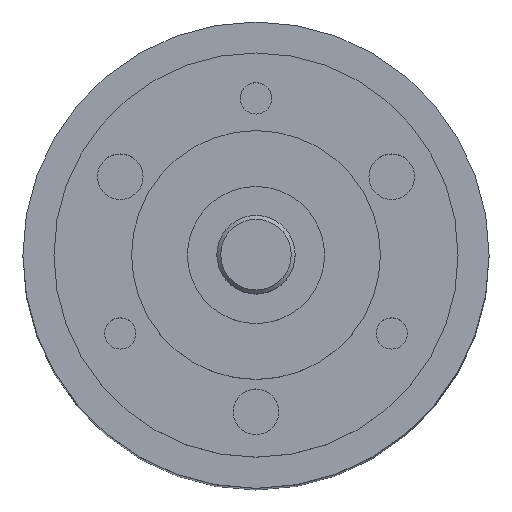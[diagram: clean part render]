
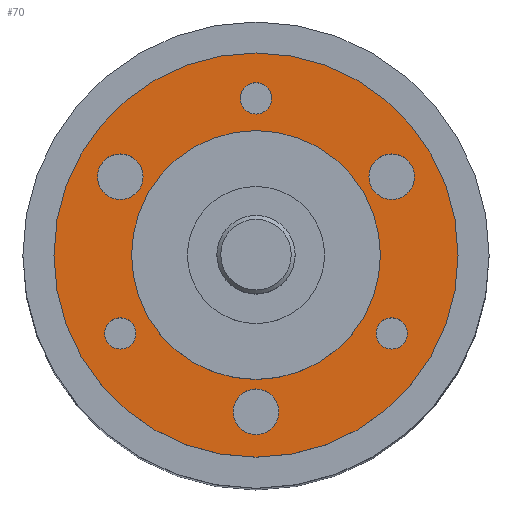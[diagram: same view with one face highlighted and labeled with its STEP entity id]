
A CAD part, top view. The second image highlights one B-rep face of the part: STEP entity #70.
In plain terms, the highlighted planar face has unit normal (0, 0, 1).
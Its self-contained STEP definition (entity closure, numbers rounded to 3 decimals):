
#47=PLANE('',#509);
#70=ADVANCED_FACE('',(#136,#137,#138,#139,#140,#141,#142,#143),#47,.T.);
#136=FACE_BOUND('',#210,.T.);
#137=FACE_BOUND('',#211,.T.);
#138=FACE_BOUND('',#212,.T.);
#139=FACE_BOUND('',#213,.T.);
#140=FACE_BOUND('',#214,.T.);
#141=FACE_BOUND('',#215,.T.);
#142=FACE_BOUND('',#216,.T.);
#143=FACE_BOUND('',#217,.T.);
#210=EDGE_LOOP('',(#292));
#211=EDGE_LOOP('',(#293));
#212=EDGE_LOOP('',(#294));
#213=EDGE_LOOP('',(#295));
#214=EDGE_LOOP('',(#296));
#215=EDGE_LOOP('',(#297));
#216=EDGE_LOOP('',(#298));
#217=EDGE_LOOP('',(#299));
#292=ORIENTED_EDGE('',*,*,#414,.F.);
#293=ORIENTED_EDGE('',*,*,#415,.T.);
#294=ORIENTED_EDGE('',*,*,#416,.T.);
#295=ORIENTED_EDGE('',*,*,#417,.T.);
#296=ORIENTED_EDGE('',*,*,#418,.T.);
#297=ORIENTED_EDGE('',*,*,#419,.T.);
#298=ORIENTED_EDGE('',*,*,#420,.T.);
#299=ORIENTED_EDGE('',*,*,#413,.T.);
#372=VERTEX_POINT('',#761);
#373=VERTEX_POINT('',#764);
#374=VERTEX_POINT('',#766);
#375=VERTEX_POINT('',#768);
#376=VERTEX_POINT('',#770);
#377=VERTEX_POINT('',#772);
#378=VERTEX_POINT('',#774);
#379=VERTEX_POINT('',#776);
#413=EDGE_CURVE('',#372,#372,#454,.T.);
#414=EDGE_CURVE('',#373,#373,#455,.T.);
#415=EDGE_CURVE('',#374,#374,#456,.T.);
#416=EDGE_CURVE('',#375,#375,#457,.T.);
#417=EDGE_CURVE('',#376,#376,#458,.T.);
#418=EDGE_CURVE('',#377,#377,#459,.T.);
#419=EDGE_CURVE('',#378,#378,#460,.T.);
#420=EDGE_CURVE('',#379,#379,#461,.T.);
#454=CIRCLE('',#500,6.35);
#455=CIRCLE('',#502,10.315);
#456=CIRCLE('',#503,1.165);
#457=CIRCLE('',#504,1.165);
#458=CIRCLE('',#505,1.165);
#459=CIRCLE('',#506,0.8);
#460=CIRCLE('',#507,0.8);
#461=CIRCLE('',#508,0.8);
#500=AXIS2_PLACEMENT_3D('',#760,#597,#598);
#502=AXIS2_PLACEMENT_3D('',#763,#601,#602);
#503=AXIS2_PLACEMENT_3D('',#765,#603,#604);
#504=AXIS2_PLACEMENT_3D('',#767,#605,#606);
#505=AXIS2_PLACEMENT_3D('',#769,#607,#608);
#506=AXIS2_PLACEMENT_3D('',#771,#609,#610);
#507=AXIS2_PLACEMENT_3D('',#773,#611,#612);
#508=AXIS2_PLACEMENT_3D('',#775,#613,#614);
#509=AXIS2_PLACEMENT_3D('',#777,#615,#616);
#597=DIRECTION('',(0.,0.,-1.));
#598=DIRECTION('',(1.,0.,0.));
#601=DIRECTION('',(0.,0.,-1.));
#602=DIRECTION('',(-1.,0.,0.));
#603=DIRECTION('',(0.,0.,-1.));
#604=DIRECTION('',(0.5,0.866,0.));
#605=DIRECTION('',(0.,0.,-1.));
#606=DIRECTION('',(0.5,-0.866,0.));
#607=DIRECTION('',(0.,0.,-1.));
#608=DIRECTION('',(-1.,0.,0.));
#609=DIRECTION('',(0.,0.,-1.));
#610=DIRECTION('',(0.5,0.866,0.));
#611=DIRECTION('',(0.,0.,-1.));
#612=DIRECTION('',(0.5,-0.866,0.));
#613=DIRECTION('',(0.,0.,-1.));
#614=DIRECTION('',(-1.,0.,0.));
#615=DIRECTION('',(0.,0.,1.));
#616=DIRECTION('',(1.,0.,0.));
#760=CARTESIAN_POINT('',(0.,0.,0.));
#761=CARTESIAN_POINT('',(6.35,0.,0.));
#763=CARTESIAN_POINT('',(0.,0.,0.));
#764=CARTESIAN_POINT('',(-10.315,0.,0.));
#765=CARTESIAN_POINT('',(6.928,4.,0.));
#766=CARTESIAN_POINT('',(7.51,5.009,0.));
#767=CARTESIAN_POINT('',(0.,-8.,0.));
#768=CARTESIAN_POINT('',(0.582,-9.009,0.));
#769=CARTESIAN_POINT('',(-6.928,4.,0.));
#770=CARTESIAN_POINT('',(-8.093,4.,0.));
#771=CARTESIAN_POINT('',(6.928,-4.,0.));
#772=CARTESIAN_POINT('',(7.328,-3.307,0.));
#773=CARTESIAN_POINT('',(-6.928,-4.,0.));
#774=CARTESIAN_POINT('',(-6.528,-4.693,0.));
#775=CARTESIAN_POINT('',(0.,8.,0.));
#776=CARTESIAN_POINT('',(-0.8,8.,0.));
#777=CARTESIAN_POINT('',(0.,0.,0.));
